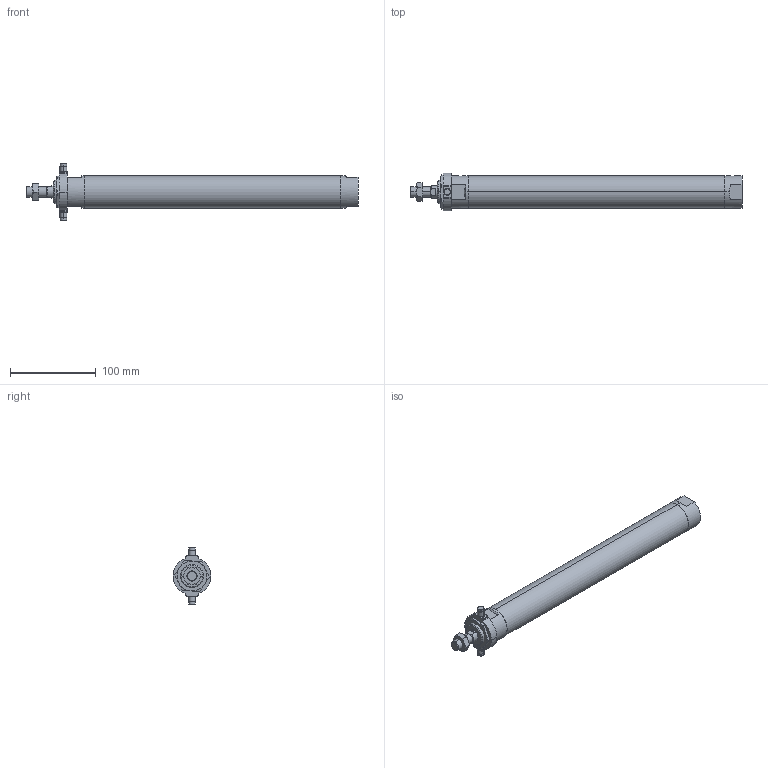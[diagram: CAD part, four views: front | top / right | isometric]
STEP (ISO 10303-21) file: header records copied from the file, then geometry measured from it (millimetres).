
FILE_DESCRIPTION (( 'STEP AP203' ), '1' );
FILE_NAME ('JGND2-32-250-T.STEP', '2016-08-04T03:02:34', ( '' ), ( '' ), 'SwSTEP 2.0', 'SolidWorks 2014', '' );
FILE_SCHEMA (( 'CONFIG_CONTROL_DESIGN' ));
Length unit declared in the file: millimetre
Products named in the file (5): JGND2-32-250-T; J#2-32-250(P); J#2-32-T
Assembly tree (4 placements, depth 2):
  JGND2-32-250-T
    J#2-32-250(P)
    (unnamed)
    (unnamed)
    J#2-32-T
Bounding box: 387 x 44 x 66 mm (x, y, z)
Volume: 399335.7 mm3; surface area: 53415.6 mm2
Topology: 4 solids, 4 shells, 128 faces, 293 edges, 177 vertices
Faces by surface type: plane 42, cylinder 41, torus 24, cone 21
Entity records: 4519 total; most frequent: CARTESIAN_POINT 1160, DIRECTION 614, ORIENTED_EDGE 578, EDGE_CURVE 289, AXIS2_PLACEMENT_3D 253, VERTEX_POINT 177, EDGE_LOOP 142, ADVANCED_FACE 128
